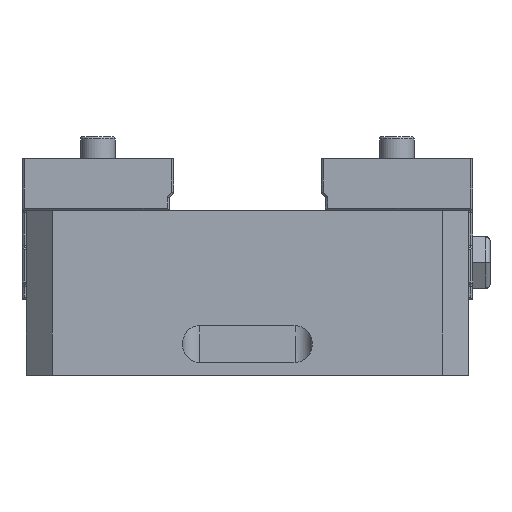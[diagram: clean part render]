
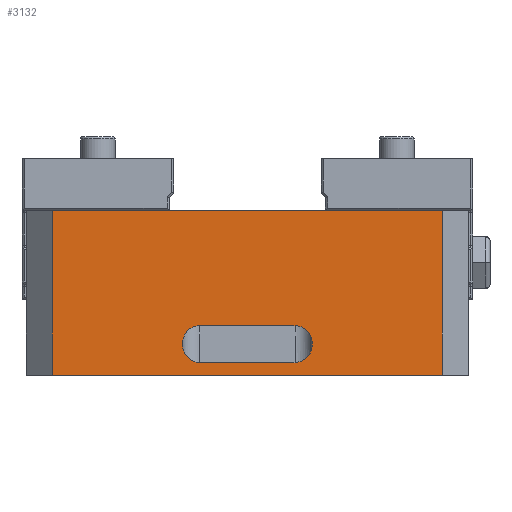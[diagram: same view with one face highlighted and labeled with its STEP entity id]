
A CAD part, front view. The second image highlights one B-rep face of the part: STEP entity #3132.
In plain terms, the highlighted planar face has unit normal (0, -1, 0).
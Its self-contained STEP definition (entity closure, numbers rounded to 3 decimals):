
#121=ELLIPSE('',#10964,4.257,4.);
#122=ELLIPSE('',#10965,4.257,4.);
#554=LINE('',#16996,#1538);
#562=LINE('',#17023,#1546);
#563=LINE('',#17025,#1547);
#564=LINE('',#17027,#1548);
#565=LINE('',#17028,#1549);
#566=LINE('',#17033,#1550);
#1538=VECTOR('',#12483,1.);
#1546=VECTOR('',#12503,1.);
#1547=VECTOR('',#12504,1.);
#1548=VECTOR('',#12505,1.);
#1549=VECTOR('',#12506,1.);
#1550=VECTOR('',#12509,1.);
#3132=ADVANCED_FACE('',(#4100,#4101),#3708,.F.);
#3708=PLANE('',#10966);
#4100=FACE_BOUND('',#4620,.T.);
#4101=FACE_BOUND('',#4621,.T.);
#4620=EDGE_LOOP('',(#6032,#6033,#6034,#6035));
#4621=EDGE_LOOP('',(#6036,#6037,#6038,#6039));
#6032=ORIENTED_EDGE('',*,*,#9398,.T.);
#6033=ORIENTED_EDGE('',*,*,#9399,.F.);
#6034=ORIENTED_EDGE('',*,*,#9400,.T.);
#6035=ORIENTED_EDGE('',*,*,#9385,.T.);
#6036=ORIENTED_EDGE('',*,*,#9401,.F.);
#6037=ORIENTED_EDGE('',*,*,#9402,.F.);
#6038=ORIENTED_EDGE('',*,*,#9403,.F.);
#6039=ORIENTED_EDGE('',*,*,#9404,.F.);
#8294=VERTEX_POINT('',#16997);
#8295=VERTEX_POINT('',#16998);
#8307=VERTEX_POINT('',#17024);
#8308=VERTEX_POINT('',#17026);
#8309=VERTEX_POINT('',#17029);
#8310=VERTEX_POINT('',#17030);
#8311=VERTEX_POINT('',#17032);
#8312=VERTEX_POINT('',#17034);
#9385=EDGE_CURVE('',#8294,#8295,#554,.T.);
#9398=EDGE_CURVE('',#8295,#8307,#562,.T.);
#9399=EDGE_CURVE('',#8308,#8307,#563,.T.);
#9400=EDGE_CURVE('',#8308,#8294,#564,.T.);
#9401=EDGE_CURVE('',#8309,#8310,#565,.T.);
#9402=EDGE_CURVE('',#8311,#8309,#121,.T.);
#9403=EDGE_CURVE('',#8312,#8311,#566,.T.);
#9404=EDGE_CURVE('',#8310,#8312,#122,.T.);
#10964=AXIS2_PLACEMENT_3D('',#17031,#12507,#12508);
#10965=AXIS2_PLACEMENT_3D('',#17035,#12510,#12511);
#10966=AXIS2_PLACEMENT_3D('',#17036,#12512,#12513);
#12483=DIRECTION('',(1.,0.,0.));
#12503=DIRECTION('',(0.,0.,1.));
#12504=DIRECTION('',(1.,0.,0.));
#12505=DIRECTION('',(0.,0.,-1.));
#12506=DIRECTION('',(-1.,0.,0.));
#12507=DIRECTION('',(0.,-1.,0.));
#12508=DIRECTION('',(0.,0.,1.));
#12509=DIRECTION('',(1.,0.,0.));
#12510=DIRECTION('',(0.,-1.,0.));
#12511=DIRECTION('',(0.,0.,1.));
#12512=DIRECTION('',(0.,1.,0.));
#12513=DIRECTION('',(0.,0.,1.));
#16996=CARTESIAN_POINT('',(-365.,221.5,67.));
#16997=CARTESIAN_POINT('',(-345.,221.5,67.));
#16998=CARTESIAN_POINT('',(-255.,221.5,67.));
#17023=CARTESIAN_POINT('',(-255.,221.5,105.));
#17024=CARTESIAN_POINT('',(-255.,221.5,105.));
#17025=CARTESIAN_POINT('',(-365.,221.5,105.));
#17026=CARTESIAN_POINT('',(-345.,221.5,105.));
#17027=CARTESIAN_POINT('',(-345.,221.5,67.));
#17028=CARTESIAN_POINT('',(-300.,221.5,78.436));
#17029=CARTESIAN_POINT('',(-289.,221.5,78.436));
#17030=CARTESIAN_POINT('',(-311.,221.5,78.436));
#17031=CARTESIAN_POINT('',(-289.,221.5,74.18));
#17032=CARTESIAN_POINT('',(-289.,221.5,69.923));
#17033=CARTESIAN_POINT('',(-300.,221.5,69.923));
#17034=CARTESIAN_POINT('',(-311.,221.5,69.923));
#17035=CARTESIAN_POINT('',(-311.,221.5,74.18));
#17036=CARTESIAN_POINT('',(-365.,221.5,67.));
